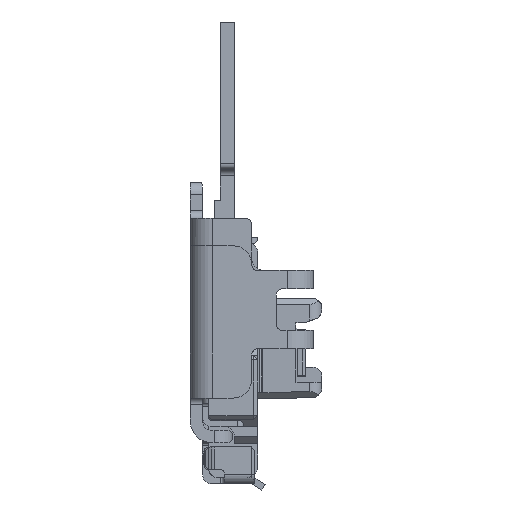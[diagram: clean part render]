
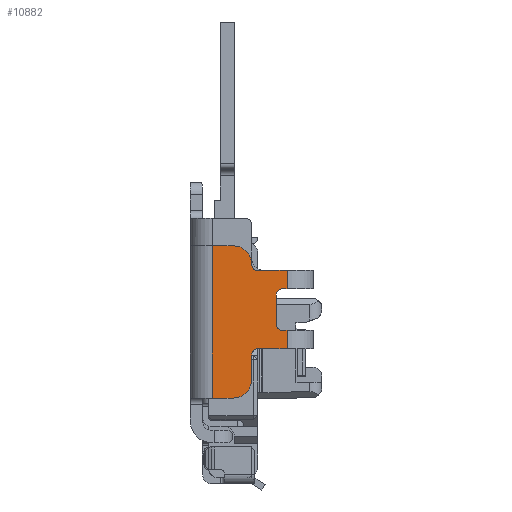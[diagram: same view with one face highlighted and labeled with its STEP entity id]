
A CAD part, left-side view. The second image highlights one B-rep face of the part: STEP entity #10882.
In plain terms, the highlighted planar face has unit normal (-1, 0, 0).
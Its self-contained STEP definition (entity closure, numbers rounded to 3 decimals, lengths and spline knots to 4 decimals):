
#310 = DIRECTION ( 'NONE',  ( 0., 1., 0. ) ) ;
#1436 = CARTESIAN_POINT ( 'NONE',  ( -16.5, 1.5, 2.185 ) ) ;
#1470 = CARTESIAN_POINT ( 'NONE',  ( -16.5, 1.84, 4.36 ) ) ;
#1598 = DIRECTION ( 'NONE',  ( 0., -1., 0. ) ) ;
#1946 = CARTESIAN_POINT ( 'NONE',  ( -16.5, 0.625, 2.685 ) ) ;
#2410 = CARTESIAN_POINT ( 'NONE',  ( -16.5, 1.2, 2.185 ) ) ;
#2512 = DIRECTION ( 'NONE',  ( 1., 0., 0. ) ) ;
#3608 = DIRECTION ( 'NONE',  ( -1., 0., 0. ) ) ;
#4708 = CIRCLE ( 'NONE', #23276, 0.3 ) ;
#5265 = ORIENTED_EDGE ( 'NONE', *, *, #63794, .F. ) ;
#6037 = LINE ( 'NONE', #61602, #44953 ) ;
#7311 = ORIENTED_EDGE ( 'NONE', *, *, #41724, .T. ) ;
#7444 = DIRECTION ( 'NONE',  ( 0., -1., 0. ) ) ;
#7906 = AXIS2_PLACEMENT_3D ( 'NONE', #13054, #2512, #8637 ) ;
#8240 = CARTESIAN_POINT ( 'NONE',  ( -16.5, 1.1, 2.585 ) ) ;
#8477 = EDGE_CURVE ( 'NONE', #37701, #69124, #21696, .T. ) ;
#8637 = DIRECTION ( 'NONE',  ( 0., -1., 0. ) ) ;
#9552 = LINE ( 'NONE', #32788, #68282 ) ;
#10651 = DIRECTION ( 'NONE',  ( 0., 0., 1. ) ) ;
#10652 = ORIENTED_EDGE ( 'NONE', *, *, #8477, .T. ) ;
#10882 = ADVANCED_FACE ( 'NONE', ( #51060 ), #40857, .T. ) ;
#11770 = ORIENTED_EDGE ( 'NONE', *, *, #55998, .F. ) ;
#11927 = LINE ( 'NONE', #39545, #50424 ) ;
#12471 = CARTESIAN_POINT ( 'NONE',  ( -16.5, 0.625, 2.985 ) ) ;
#12643 = VECTOR ( 'NONE', #52533, 1000. ) ;
#13054 = CARTESIAN_POINT ( 'NONE',  ( -16.5, 1.1, 4.06 ) ) ;
#15082 = VERTEX_POINT ( 'NONE', #42844 ) ;
#15263 = DIRECTION ( 'NONE',  ( 0., 0., 1. ) ) ;
#15909 = VECTOR ( 'NONE', #35888, 1000. ) ;
#16480 = EDGE_CURVE ( 'NONE', #49632, #43738, #23652, .T. ) ;
#16740 = CARTESIAN_POINT ( 'NONE',  ( -16.5, 0.7, 3.66 ) ) ;
#17163 = CIRCLE ( 'NONE', #62432, 0.3 ) ;
#17419 = VECTOR ( 'NONE', #55636, 1000. ) ;
#18233 = CARTESIAN_POINT ( 'NONE',  ( -16.5, 0.8, 3.085 ) ) ;
#18580 = ORIENTED_EDGE ( 'NONE', *, *, #58276, .T. ) ;
#18997 = ORIENTED_EDGE ( 'NONE', *, *, #29018, .T. ) ;
#20784 = ORIENTED_EDGE ( 'NONE', *, *, #35069, .T. ) ;
#21055 = CARTESIAN_POINT ( 'NONE',  ( -16.5, 0.7, 3.085 ) ) ;
#21164 = DIRECTION ( 'NONE',  ( 0., 1., 0. ) ) ;
#21180 = CARTESIAN_POINT ( 'NONE',  ( -16.5, 0.625, 2.685 ) ) ;
#21696 = LINE ( 'NONE', #43863, #40623 ) ;
#22798 = VERTEX_POINT ( 'NONE', #18233 ) ;
#23276 = AXIS2_PLACEMENT_3D ( 'NONE', #1436, #61725, #57311 ) ;
#23644 = EDGE_CURVE ( 'NONE', #22798, #59273, #11927, .T. ) ;
#23652 = LINE ( 'NONE', #47866, #28812 ) ;
#24239 = DIRECTION ( 'NONE',  ( 0., 0., 1. ) ) ;
#25303 = CIRCLE ( 'NONE', #33409, 0.1 ) ;
#25738 = DIRECTION ( 'NONE',  ( 0., -1., 0. ) ) ;
#25951 = VERTEX_POINT ( 'NONE', #38122 ) ;
#26449 = CIRCLE ( 'NONE', #7906, 0.1 ) ;
#28040 = ORIENTED_EDGE ( 'NONE', *, *, #58199, .T. ) ;
#28362 = VERTEX_POINT ( 'NONE', #59330 ) ;
#28414 = DIRECTION ( 'NONE',  ( 0., 0., -1. ) ) ;
#28606 = CARTESIAN_POINT ( 'NONE',  ( -16.5, 1.2, 1.885 ) ) ;
#28812 = VECTOR ( 'NONE', #63509, 1000. ) ;
#29018 = EDGE_CURVE ( 'NONE', #46002, #50649, #26449, .T. ) ;
#30261 = LINE ( 'NONE', #1946, #32750 ) ;
#30665 = CARTESIAN_POINT ( 'NONE',  ( -16.5, 1.2, 4.06 ) ) ;
#31142 = CARTESIAN_POINT ( 'NONE',  ( -16.5, 1.84, 2.685 ) ) ;
#31700 = AXIS2_PLACEMENT_3D ( 'NONE', #21055, #59910, #15263 ) ;
#32665 = ORIENTED_EDGE ( 'NONE', *, *, #16480, .T. ) ;
#32750 = VECTOR ( 'NONE', #1598, 1000. ) ;
#32788 = CARTESIAN_POINT ( 'NONE',  ( -16.5, 0.625, 2.685 ) ) ;
#33409 = AXIS2_PLACEMENT_3D ( 'NONE', #60750, #67667, #28414 ) ;
#34486 = EDGE_CURVE ( 'NONE', #46002, #43472, #6037, .T. ) ;
#35069 = EDGE_CURVE ( 'NONE', #50649, #38690, #17163, .T. ) ;
#35257 = VERTEX_POINT ( 'NONE', #67138 ) ;
#35291 = ORIENTED_EDGE ( 'NONE', *, *, #34486, .F. ) ;
#35888 = DIRECTION ( 'NONE',  ( 0., 0., 1. ) ) ;
#35893 = EDGE_CURVE ( 'NONE', #43738, #25951, #37516, .T. ) ;
#37250 = VERTEX_POINT ( 'NONE', #45100 ) ;
#37516 = LINE ( 'NONE', #42982, #46298 ) ;
#37701 = VERTEX_POINT ( 'NONE', #2410 ) ;
#38122 = CARTESIAN_POINT ( 'NONE',  ( -16.5, 0.7, 2.985 ) ) ;
#38690 = VERTEX_POINT ( 'NONE', #70455 ) ;
#39545 = CARTESIAN_POINT ( 'NONE',  ( -16.5, 0.8, 3.085 ) ) ;
#39865 = DIRECTION ( 'NONE',  ( 1., 0., 0. ) ) ;
#40592 = DIRECTION ( 'NONE',  ( 0., -1., 0. ) ) ;
#40623 = VECTOR ( 'NONE', #49319, 1000. ) ;
#40857 = PLANE ( 'NONE',  #71557 ) ;
#41265 = EDGE_CURVE ( 'NONE', #35257, #45569, #45093, .T. ) ;
#41724 = EDGE_CURVE ( 'NONE', #46433, #37701, #4708, .T. ) ;
#42199 = CARTESIAN_POINT ( 'NONE',  ( -16.5, 1.2, 2.585 ) ) ;
#42460 = ORIENTED_EDGE ( 'NONE', *, *, #51105, .T. ) ;
#42749 = CARTESIAN_POINT ( 'NONE',  ( -16.5, 1.1, 3.96 ) ) ;
#42844 = CARTESIAN_POINT ( 'NONE',  ( -16.5, 1.84, 1.885 ) ) ;
#42982 = CARTESIAN_POINT ( 'NONE',  ( -16.5, 0.7, 2.985 ) ) ;
#43472 = VERTEX_POINT ( 'NONE', #66164 ) ;
#43738 = VERTEX_POINT ( 'NONE', #12471 ) ;
#43863 = CARTESIAN_POINT ( 'NONE',  ( -16.5, 1.2, 1.885 ) ) ;
#44677 = VECTOR ( 'NONE', #310, 1000. ) ;
#44953 = VECTOR ( 'NONE', #56858, 1000. ) ;
#44977 = ORIENTED_EDGE ( 'NONE', *, *, #51857, .T. ) ;
#45093 = LINE ( 'NONE', #16740, #17419 ) ;
#45100 = CARTESIAN_POINT ( 'NONE',  ( -16.5, 1.84, 4.36 ) ) ;
#45569 = VERTEX_POINT ( 'NONE', #59534 ) ;
#46002 = VERTEX_POINT ( 'NONE', #42749 ) ;
#46298 = VECTOR ( 'NONE', #21164, 1000. ) ;
#46433 = VERTEX_POINT ( 'NONE', #70549 ) ;
#46644 = CARTESIAN_POINT ( 'NONE',  ( -16.5, 0.625, 2.685 ) ) ;
#47866 = CARTESIAN_POINT ( 'NONE',  ( -16.5, 0.625, 2.685 ) ) ;
#49319 = DIRECTION ( 'NONE',  ( 0., 0., 1. ) ) ;
#49632 = VERTEX_POINT ( 'NONE', #21180 ) ;
#50069 = LINE ( 'NONE', #28606, #44677 ) ;
#50424 = VECTOR ( 'NONE', #24239, 1000. ) ;
#50502 = AXIS2_PLACEMENT_3D ( 'NONE', #8240, #39865, #40592 ) ;
#50649 = VERTEX_POINT ( 'NONE', #30665 ) ;
#50850 = ORIENTED_EDGE ( 'NONE', *, *, #63863, .T. ) ;
#51060 = FACE_OUTER_BOUND ( 'NONE', #61317, .T. ) ;
#51105 = EDGE_CURVE ( 'NONE', #28362, #49632, #30261, .T. ) ;
#51857 = EDGE_CURVE ( 'NONE', #25951, #22798, #58405, .T. ) ;
#52533 = DIRECTION ( 'NONE',  ( 0., -1., 0. ) ) ;
#53359 = CARTESIAN_POINT ( 'NONE',  ( -16.5, 1.5, 4.06 ) ) ;
#55636 = DIRECTION ( 'NONE',  ( 0., -1., 0. ) ) ;
#55998 = EDGE_CURVE ( 'NONE', #15082, #37250, #70010, .T. ) ;
#56858 = DIRECTION ( 'NONE',  ( 0., -1., 0. ) ) ;
#57194 = DIRECTION ( 'NONE',  ( -1., 0., 0. ) ) ;
#57311 = DIRECTION ( 'NONE',  ( 0., -1., 0. ) ) ;
#57534 = ORIENTED_EDGE ( 'NONE', *, *, #35893, .T. ) ;
#58199 = EDGE_CURVE ( 'NONE', #45569, #43472, #9552, .T. ) ;
#58276 = EDGE_CURVE ( 'NONE', #59273, #35257, #25303, .T. ) ;
#58405 = CIRCLE ( 'NONE', #31700, 0.1 ) ;
#58594 = ORIENTED_EDGE ( 'NONE', *, *, #41265, .T. ) ;
#58897 = EDGE_CURVE ( 'NONE', #37250, #38690, #64500, .T. ) ;
#59273 = VERTEX_POINT ( 'NONE', #65881 ) ;
#59330 = CARTESIAN_POINT ( 'NONE',  ( -16.5, 1.1, 2.685 ) ) ;
#59534 = CARTESIAN_POINT ( 'NONE',  ( -16.5, 0.625, 3.66 ) ) ;
#59910 = DIRECTION ( 'NONE',  ( 1., 0., 0. ) ) ;
#60618 = ORIENTED_EDGE ( 'NONE', *, *, #23644, .T. ) ;
#60750 = CARTESIAN_POINT ( 'NONE',  ( -16.5, 0.7, 3.56 ) ) ;
#61317 = EDGE_LOOP ( 'NONE', ( #18997, #20784, #61441, #11770, #5265, #7311, #10652, #50850, #42460, #32665, #57534, #44977, #60618, #18580, #58594, #28040, #35291 ) ) ;
#61441 = ORIENTED_EDGE ( 'NONE', *, *, #58897, .F. ) ;
#61602 = CARTESIAN_POINT ( 'NONE',  ( -16.5, 0.625, 3.96 ) ) ;
#61725 = DIRECTION ( 'NONE',  ( -1., 0., 0. ) ) ;
#62112 = CIRCLE ( 'NONE', #50502, 0.1 ) ;
#62432 = AXIS2_PLACEMENT_3D ( 'NONE', #53359, #3608, #25738 ) ;
#63509 = DIRECTION ( 'NONE',  ( 0., 0., 1. ) ) ;
#63794 = EDGE_CURVE ( 'NONE', #46433, #15082, #50069, .T. ) ;
#63863 = EDGE_CURVE ( 'NONE', #69124, #28362, #62112, .T. ) ;
#64500 = LINE ( 'NONE', #1470, #12643 ) ;
#65881 = CARTESIAN_POINT ( 'NONE',  ( -16.5, 0.8, 3.56 ) ) ;
#66164 = CARTESIAN_POINT ( 'NONE',  ( -16.5, 0.625, 3.96 ) ) ;
#67138 = CARTESIAN_POINT ( 'NONE',  ( -16.5, 0.7, 3.66 ) ) ;
#67667 = DIRECTION ( 'NONE',  ( 1., 0., 0. ) ) ;
#68282 = VECTOR ( 'NONE', #10651, 1000. ) ;
#69124 = VERTEX_POINT ( 'NONE', #42199 ) ;
#70010 = LINE ( 'NONE', #31142, #15909 ) ;
#70455 = CARTESIAN_POINT ( 'NONE',  ( -16.5, 1.5, 4.36 ) ) ;
#70549 = CARTESIAN_POINT ( 'NONE',  ( -16.5, 1.5, 1.885 ) ) ;
#71557 = AXIS2_PLACEMENT_3D ( 'NONE', #46644, #57194, #7444 ) ;
